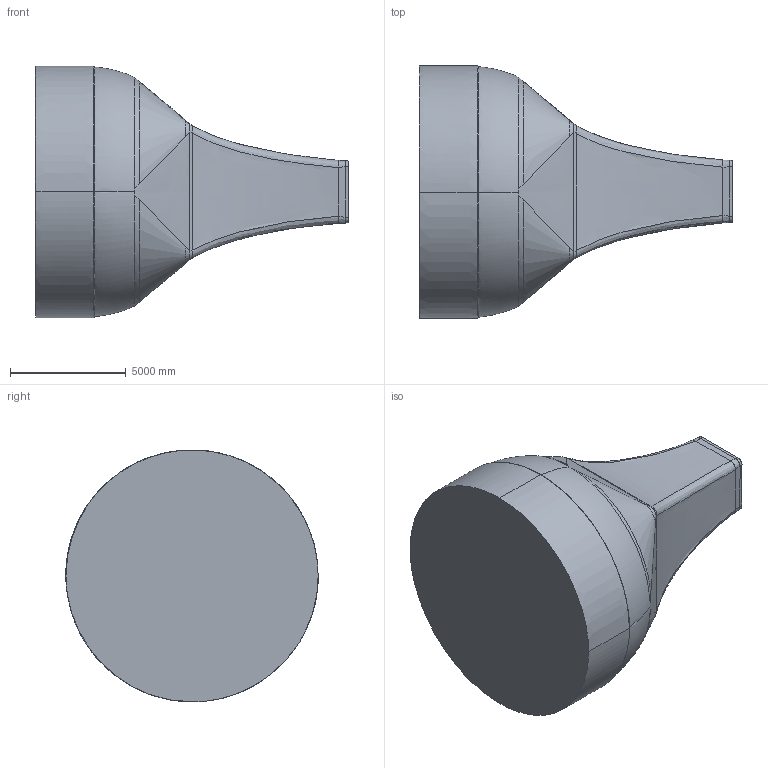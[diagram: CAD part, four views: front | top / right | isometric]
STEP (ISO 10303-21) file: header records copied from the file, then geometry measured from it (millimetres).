
FILE_DESCRIPTION(/* description */ (''),/* implementation_level */ '2;1');
FILE_NAME(/* name */ 'NTF_Inlet_Contraction_2023_10_02.stp',/* time_stamp */ '2023-10-02T14:25:23-04:00',/* author */ (''),/* organization */ (''),/* preprocessor_version */ 'ST-DEVELOPER v16.7',/* originating_system */ 'SIEMENS PLM Software NX 12.0',/* authorisation */ '');
FILE_SCHEMA (('AUTOMOTIVE_DESIGN { 1 0 10303 214 3 1 1 1 }'));
Products named in the file (1): sbry3178F678wn2w
Bounding box: 13500.79 x 10888.34 x 10859.81 mm (x, y, z)
Volume: 619270334745.7 mm3; surface area: 429634933.2 mm2
Topology: 1 solids, 1 shells, 62 faces, 140 edges, 80 vertices
Faces by surface type: bspline 62
Entity records: 95388 total; most frequent: CARTESIAN_POINT 94459, ORIENTED_EDGE 280, EDGE_CURVE 140, B_SPLINE_CURVE_WITH_KNOTS 140, VERTEX_POINT 80, ADVANCED_FACE 62, B_SPLINE_SURFACE_WITH_KNOTS 62, FACE_OUTER_BOUND 62
